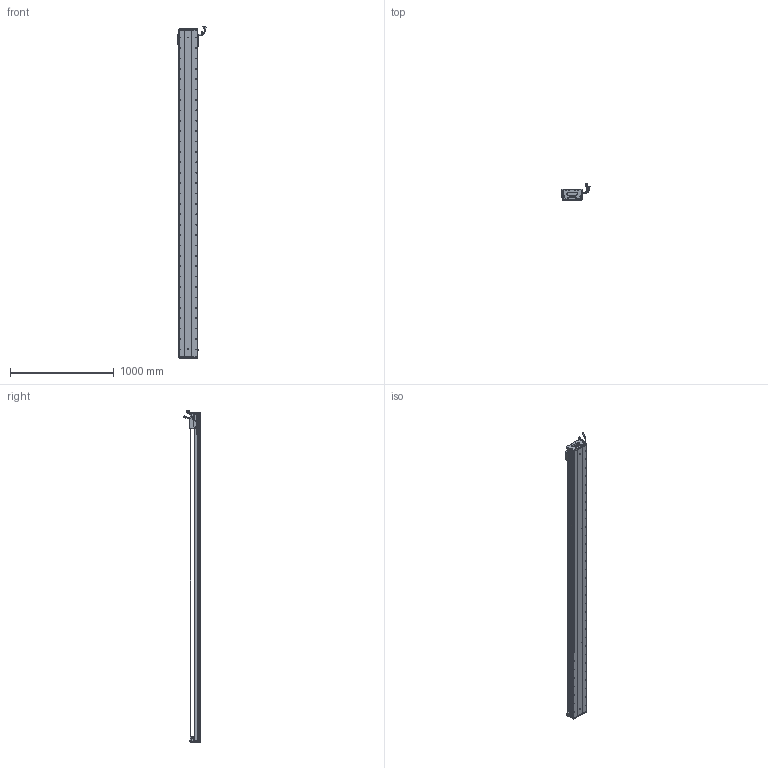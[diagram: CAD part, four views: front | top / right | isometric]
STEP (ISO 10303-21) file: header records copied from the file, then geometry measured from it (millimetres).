
FILE_DESCRIPTION (( 'STEP AP203' ), '1' );
FILE_NAME ('Z1-RY170D-1-L500-B-K.SLDASM_2950.step', '2021-05-17T08:57:26', ( '盈信电脑' ), ( '东莞市道滘镇水果街19号' ), 'SwSTEP 2.0', 'SolidWorks 2016', '' );
FILE_SCHEMA (( 'CONFIG_CONTROL_DESIGN' ));
Length unit declared in the file: millimetre
Products named in the file (36): HARNESS-Part-2; 140蚥薯蝶輸; LABEL-Part-1; HARNESS-Part-1; SCREW-M1.7; SCREW-M1.6-2; 140雄赽晤鎢ん堤盄; SCREW-M1.6-3; Z1-RY170D-1-L500-B-K.SLDASM_2950; SEAL; SCALE-Part-2; Z1-RY170臏賑輸(21遴); Z1-RY170-L500耀郪菁釱_2950; 榋妏寠巭燃_暯_M2_2; HARNESS; SCALE; Z-RY170詩湍奻揤裔; SCREW-M1.6-1; SHIELDPLATE; COVER-Part-1; HOLDER0; PSLH080_PSLF2; Z-RY170詩湍狟揤裔; 覜茼ん672; Z-170詩湍傷裔啣; SCREW-M1.6; 170-Z-臏賑輸盄裔(21遴); RY170直线电机感应器672光电感应片; COVER; 080黍杅芛假蚾釱21遴; LABEL; SCALE-Part-1; Z1-RY170-L500詩湍145mm遵_2950; PBU_SHEET; SEAL-Part-1; SCREW-M1.7-1
Assembly tree (41 placements, depth 4):
  Z1-RY170D-1-L500-B-K.SLDASM_2950
    Z1-RY170-L500耀郪菁釱_2950
    RY170直线电机感应器672光电感应片
    Z1-RY170臏賑輸(21遴)
    覜茼ん672  x3
    PSLH080_PSLF2
      SCALE
        SCALE-Part-1
        SCALE-Part-2
      HARNESS
        HARNESS-Part-1
        HARNESS-Part-2
      LABEL
        LABEL-Part-1
      COVER
        COVER-Part-1
      SEAL
        SEAL-Part-1
      榋妏寠巭燃_暯_M2_2
      SHIELDPLATE
      SCREW-M1.7
      SCREW-M1.7-1
      PBU_SHEET
      SCREW-M1.6
      SCREW-M1.6-1
      SCREW-M1.6-2
      SCREW-M1.6-3
      HOLDER0
    080黍杅芛假蚾釱21遴
    Z1-RY170-L500詩湍145mm遵_2950
    Z-170詩湍傷裔啣  x2
    Z-RY170詩湍奻揤裔  x2
    Z-RY170詩湍狟揤裔  x2
    140蚥薯蝶輸  x2
    170-Z-臏賑輸盄裔(21遴)
    140雄赽晤鎢ん堤盄
Bounding box: 275.29 x 158.11 x 3193.72 mm (x, y, z)
Volume: 15041343.8 mm3; surface area: 3766503.1 mm2
Topology: 36 solids, 36 shells, 4332 faces, 12143 edges, 7575 vertices
Faces by surface type: cylinder 2238, plane 1348, cone 624, torus 69, bspline 53
Entity records: 139023 total; most frequent: CARTESIAN_POINT 40020, ORIENTED_EDGE 20610, DIRECTION 18849, EDGE_CURVE 10305, AXIS2_PLACEMENT_3D 6942, VERTEX_POINT 6693, VECTOR 4965, LINE 4965
